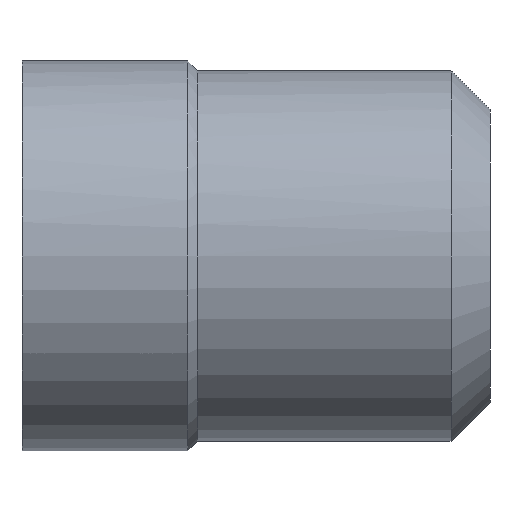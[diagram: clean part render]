
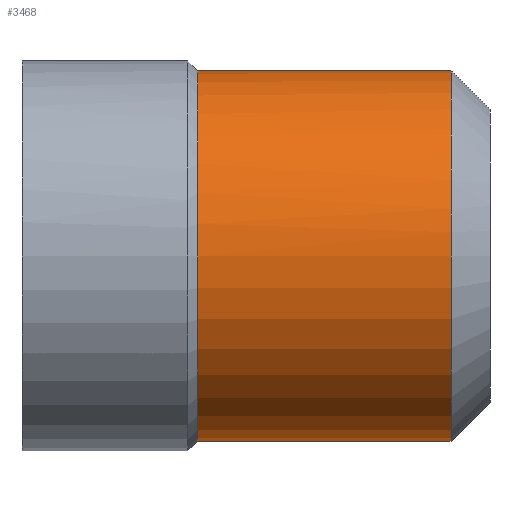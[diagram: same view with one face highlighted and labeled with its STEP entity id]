
A CAD part, front view. The second image highlights one B-rep face of the part: STEP entity #3468.
In plain terms, the highlighted cylindrical face has radius 4.75 mm (diameter 9.5 mm), a partial arc.
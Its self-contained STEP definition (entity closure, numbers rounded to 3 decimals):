
#2988=CARTESIAN_POINT('Vertex',(4.5,0.,4.75)) ;
#3002=CARTESIAN_POINT('Vertex',(4.5,0.,-4.75)) ;
#3024=CARTESIAN_POINT('Axis2P3D Location',(4.5,0.,0.)) ;
#3028=CARTESIAN_POINT('Vertex',(4.5,-4.75,0.)) ;
#3031=CARTESIAN_POINT('Axis2P3D Location',(4.5,0.,0.)) ;
#3402=CARTESIAN_POINT('Line Origine',(4.564,0.,-4.75)) ;
#3406=CARTESIAN_POINT('Vertex',(11.,0.,-4.75)) ;
#3409=CARTESIAN_POINT('Line Origine',(4.564,0.,4.75)) ;
#3413=CARTESIAN_POINT('Vertex',(11.,0.,4.75)) ;
#3440=CARTESIAN_POINT('Axis2P3D Location',(4.564,0.,0.)) ;
#3445=CARTESIAN_POINT('Axis2P3D Location',(11.,0.,0.)) ;
#3449=CARTESIAN_POINT('Vertex',(11.,-4.75,0.)) ;
#3453=CARTESIAN_POINT('Control Point',(11.,0.,4.75)) ;
#3454=CARTESIAN_POINT('Control Point',(11.,-1.492,4.75)) ;
#3455=CARTESIAN_POINT('Control Point',(11.,-2.986,4.166)) ;
#3456=CARTESIAN_POINT('Control Point',(11.,-4.166,2.986)) ;
#3457=CARTESIAN_POINT('Control Point',(11.,-4.75,1.492)) ;
#3458=CARTESIAN_POINT('Control Point',(11.,-4.75,0.)) ;
#3025=DIRECTION('Axis2P3D Direction',(-1.,0.,0.)) ;
#3032=DIRECTION('Axis2P3D Direction',(-1.,0.,0.)) ;
#3403=DIRECTION('Vector Direction',(-1.,0.,0.)) ;
#3410=DIRECTION('Vector Direction',(-1.,0.,0.)) ;
#3441=DIRECTION('Axis2P3D Direction',(-1.,-0.,-0.)) ;
#3442=DIRECTION('Axis2P3D XDirection',(0.,0.,-1.)) ;
#3446=DIRECTION('Axis2P3D Direction',(-1.,-0.,-0.)) ;
#3026=AXIS2_PLACEMENT_3D('Circle Axis2P3D',#3024,#3025,$) ;
#3033=AXIS2_PLACEMENT_3D('Circle Axis2P3D',#3031,#3032,$) ;
#3443=AXIS2_PLACEMENT_3D('Cylinder Axis2P3D',#3440,#3441,#3442) ;
#3447=AXIS2_PLACEMENT_3D('Circle Axis2P3D',#3445,#3446,$) ;
#3461=ORIENTED_EDGE('',*,*,#3415,.T.) ;
#3462=ORIENTED_EDGE('',*,*,#3035,.T.) ;
#3463=ORIENTED_EDGE('',*,*,#3030,.T.) ;
#3464=ORIENTED_EDGE('',*,*,#3408,.T.) ;
#3465=ORIENTED_EDGE('',*,*,#3451,.F.) ;
#3466=ORIENTED_EDGE('',*,*,#3459,.F.) ;
#3404=VECTOR('Line Direction',#3403,1.) ;
#3411=VECTOR('Line Direction',#3410,1.) ;
#3468=ADVANCED_FACE('MPOM10',(#3467),#3444,.T.) ;
#3452=B_SPLINE_CURVE_WITH_KNOTS('',5,(#3453,#3454,#3455,#3456,#3457,#3458),.UNSPECIFIED.,.F.,.U.,(6,6),(-3.731,3.731),.UNSPECIFIED.) ;
#3027=CIRCLE('generated circle',#3026,4.75) ;
#3034=CIRCLE('generated circle',#3033,4.75) ;
#3448=CIRCLE('generated circle',#3447,4.75) ;
#3444=CYLINDRICAL_SURFACE('generated cylinder',#3443,4.75) ;
#3030=EDGE_CURVE('',#3029,#3003,#3027,.F.) ;
#3035=EDGE_CURVE('',#2989,#3029,#3034,.F.) ;
#3408=EDGE_CURVE('',#3003,#3407,#3405,.F.) ;
#3415=EDGE_CURVE('',#3414,#2989,#3412,.T.) ;
#3451=EDGE_CURVE('',#3450,#3407,#3448,.F.) ;
#3459=EDGE_CURVE('',#3414,#3450,#3452,.T.) ;
#3460=EDGE_LOOP('',(#3461,#3462,#3463,#3464,#3465,#3466)) ;
#3467=FACE_OUTER_BOUND('',#3460,.T.) ;
#3405=LINE('Line',#3402,#3404) ;
#3412=LINE('Line',#3409,#3411) ;
#2989=VERTEX_POINT('',#2988) ;
#3003=VERTEX_POINT('',#3002) ;
#3029=VERTEX_POINT('',#3028) ;
#3407=VERTEX_POINT('',#3406) ;
#3414=VERTEX_POINT('',#3413) ;
#3450=VERTEX_POINT('',#3449) ;
